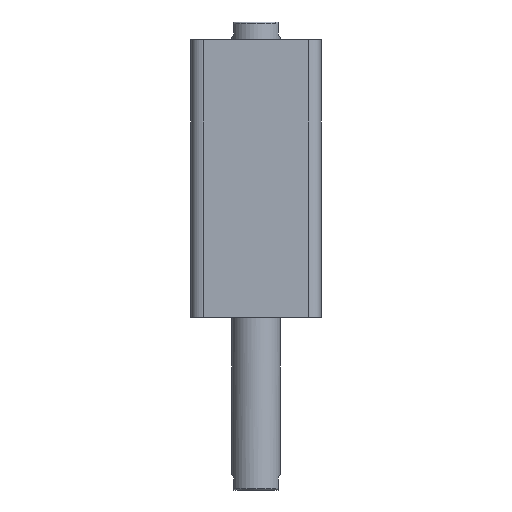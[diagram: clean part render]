
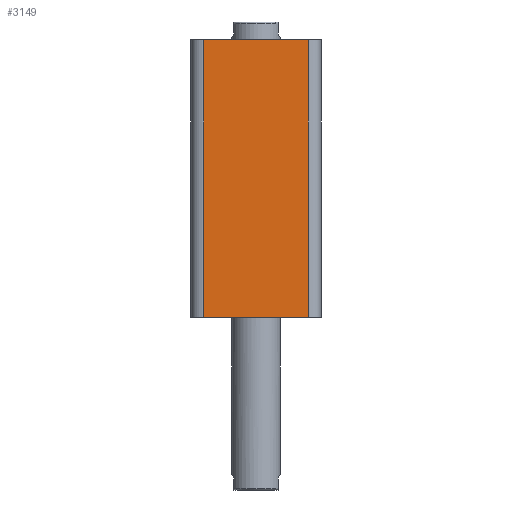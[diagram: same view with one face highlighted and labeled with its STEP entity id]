
A CAD part, front view. The second image highlights one B-rep face of the part: STEP entity #3149.
In plain terms, the highlighted planar face has unit normal (0, -1, 0).
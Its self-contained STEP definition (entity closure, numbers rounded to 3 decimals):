
#201 = EDGE_CURVE ( 'NONE', #1770, #1779, #1008, .T. ) ;
#202 = EDGE_CURVE ( 'NONE', #1770, #1780, #1010, .T. ) ;
#203 = EDGE_CURVE ( 'NONE', #1780, #1781, #1002, .T. ) ;
#204 = EDGE_CURVE ( 'NONE', #1781, #1779, #1014, .T. ) ;
#674 = CARTESIAN_POINT ( 'NONE',  ( -40., -40., 0. ) ) ;
#684 = CARTESIAN_POINT ( 'NONE',  ( -40., -40., 170. ) ) ;
#685 = DIRECTION ( 'NONE',  ( 1., 0., 0. ) ) ;
#686 = CARTESIAN_POINT ( 'NONE',  ( -32., -40., 170. ) ) ;
#687 = DIRECTION ( 'NONE',  ( 0., 0., -1. ) ) ;
#688 = DIRECTION ( 'NONE',  ( 1., 0., 0. ) ) ;
#689 = CARTESIAN_POINT ( 'NONE',  ( 32., -40., 170. ) ) ;
#690 = DIRECTION ( 'NONE',  ( 0., 0., 1. ) ) ;
#1002 = LINE ( 'NONE', #674, #1015 ) ;
#1008 = LINE ( 'NONE', #684, #1011 ) ;
#1010 = LINE ( 'NONE', #686, #1013 ) ;
#1011 = VECTOR ( 'NONE', #685, 1000. ) ;
#1013 = VECTOR ( 'NONE', #687, 1000. ) ;
#1014 = LINE ( 'NONE', #689, #1017 ) ;
#1015 = VECTOR ( 'NONE', #688, 1000. ) ;
#1017 = VECTOR ( 'NONE', #690, 1000. ) ;
#1215 = FACE_OUTER_BOUND ( 'NONE', #1898, .T. ) ;
#1522 = AXIS2_PLACEMENT_3D ( 'NONE', #3023, #3029, #3030 ) ;
#1704 = ORIENTED_EDGE ( 'NONE', *, *, #204, .T. ) ;
#1705 = ORIENTED_EDGE ( 'NONE', *, *, #203, .T. ) ;
#1706 = ORIENTED_EDGE ( 'NONE', *, *, #202, .T. ) ;
#1707 = ORIENTED_EDGE ( 'NONE', *, *, #201, .F. ) ;
#1770 = VERTEX_POINT ( 'NONE', #2768 ) ;
#1779 = VERTEX_POINT ( 'NONE', #2777 ) ;
#1780 = VERTEX_POINT ( 'NONE', #2778 ) ;
#1781 = VERTEX_POINT ( 'NONE', #2779 ) ;
#1898 = EDGE_LOOP ( 'NONE', ( #1707, #1706, #1705, #1704 ) ) ;
#2768 = CARTESIAN_POINT ( 'NONE',  ( -32., -40., 170. ) ) ;
#2777 = CARTESIAN_POINT ( 'NONE',  ( 32., -40., 170. ) ) ;
#2778 = CARTESIAN_POINT ( 'NONE',  ( -32., -40., 0. ) ) ;
#2779 = CARTESIAN_POINT ( 'NONE',  ( 32., -40., 0. ) ) ;
#3023 = CARTESIAN_POINT ( 'NONE',  ( -40., -40., 170. ) ) ;
#3027 = PLANE ( 'NONE',  #1522 ) ;
#3029 = DIRECTION ( 'NONE',  ( 0., 1., 0. ) ) ;
#3030 = DIRECTION ( 'NONE',  ( 0., 0., 1. ) ) ;
#3149 = ADVANCED_FACE ( 'NONE', ( #1215 ), #3027, .F. ) ;
